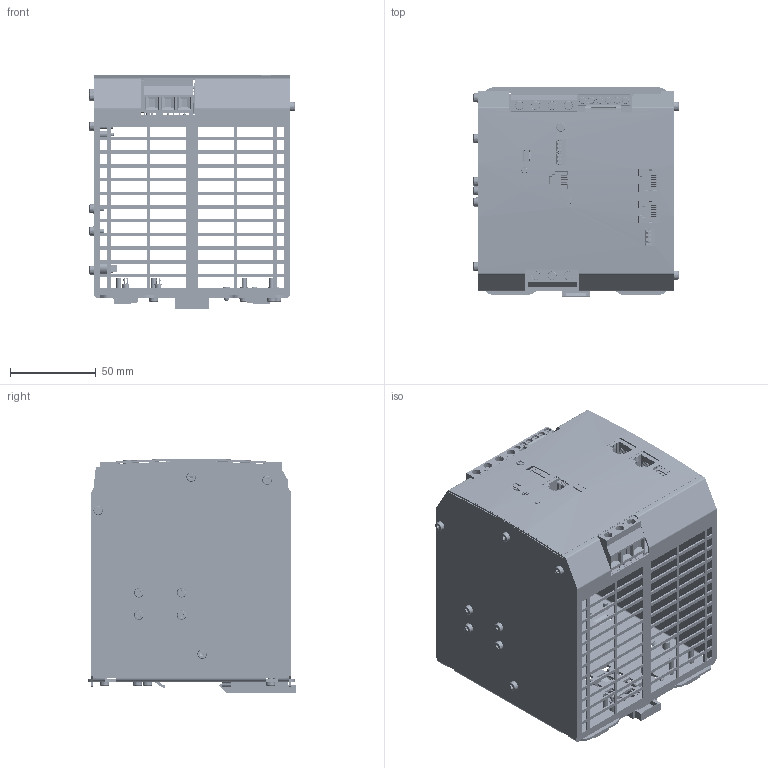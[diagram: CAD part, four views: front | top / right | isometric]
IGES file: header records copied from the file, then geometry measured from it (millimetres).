
Global section: file name: No Iges File Name specified; native system: Autodesk Inventor 2012; preprocessor: AutoDesk Inventor Iges Exporter R2012; author: Tecnico2; date: 20151201.162123; units: millimetre
Bounding box: 119.8 x 122.01 x 136.92 mm (x, y, z)
Volume: 143387.3 mm3; surface area: 232991.3 mm2
Topology: 98 solids, 105 shells, 8338 faces, 25947 edges, 18581 vertices
Faces by surface type: plane 5578, cylinder 1116, revolution 969, bspline 323, torus 155, sphere 125, cone 72
Full cylindrical faces by diameter (mm): 0.45 x24, 0.8 x4, 1.3 x27, 1.4 x6, 1.52 x5, 2.12 x2, 2.4 x3, 2.675 x18, 2.8 x1, 3 x18, 3.8 x4, 3.85 x6, 4 x1, 4.3 x8, 4.445 x3, 5 x10, 6.7 x2, 9 x1
